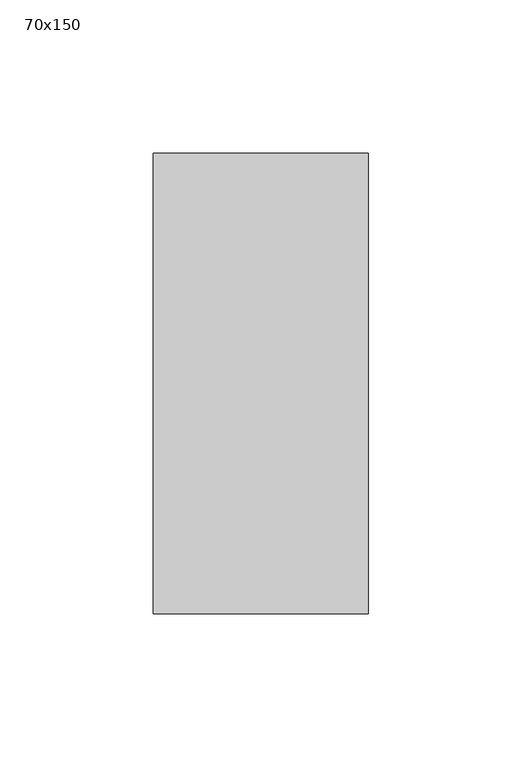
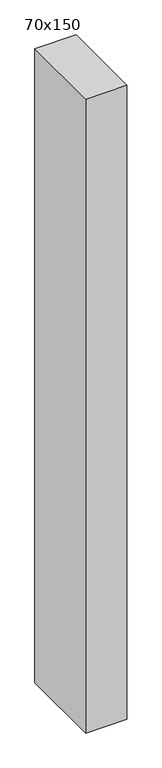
"""IFC4 building model written with IfcOpenShell, lengths in millimetres: member geometry, 長方形のマリオン : 70x150."""

from ifc_helpers import new_model, si_unit, frame, origin, place, context, project, spatial, polyline, outline, extrude, source, transform, mapped, element, save


def member_70x150_30001a1b(model_context):
    return source(origin(), model_context, "Body", "SweptSolid", [
        extrude(outline(polyline([(0.0, 75.0), (0.0, -75.0), (-70.0, -75.0), (-70.0, 75.0), (0.0, 75.0)])), frame((0.0, 0.0, -1141.6408833), z_axis=(0.0, 0.0, 1.0), x_axis=(1.0, 0.0, 0.0)), (0.0, 0.0, 1.0), 1141.6408833),
    ])


if __name__ == "__main__":
    model = new_model("IFC4")
    model_context = context("Model", 3, world=origin())
    ifc_project = project(units=[si_unit("LENGTHUNIT", "METRE", prefix="MILLI")], contexts=[model_context])
    site = spatial("IfcSite", under=ifc_project)
    building = spatial("IfcBuilding", under=site)
    placement = place(None, origin())
    member_70x150_shape = member_70x150_30001a1b(model_context)
    element("IfcMember", 1, ObjectType="長方形のマリオン : 70x150", at=placement, inside=building, context=model_context, shape_type="MappedRepresentation", body=[
        mapped(member_70x150_shape, transform((0.0, 0.0, 0.0), x_axis=(1.0, 0.0, 0.0), y_axis=(0.0, 1.0, 0.0), z_axis=(0.0, 0.0, 1.0))),
    ])
    save(model, "model.ifc")
